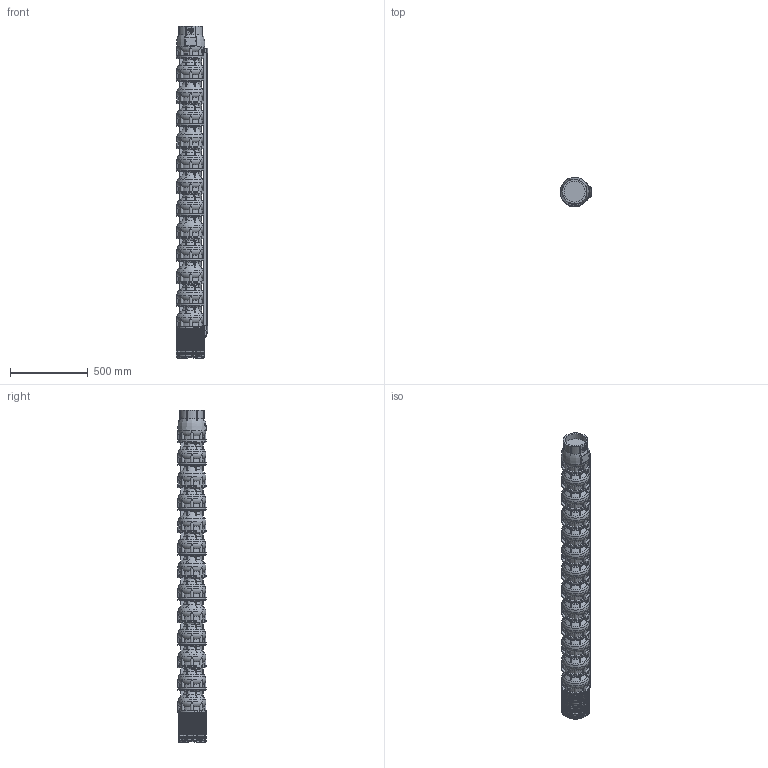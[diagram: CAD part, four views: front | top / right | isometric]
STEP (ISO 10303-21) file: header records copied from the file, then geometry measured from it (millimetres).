
FILE_DESCRIPTION(/* description */ ('Unknown'),/* implementation_level */ '2;1');
FILE_NAME(/* name */ 'VSI134-12_WR_M8-50_DLE',/* time_stamp */ '2023-09-14T14:36:36+02:00',/* author */ ('Unknown'),/* organization */ ('Unknown'),/* preprocessor_version */ 'ST-DEVELOPER v18.102',/* originating_system */ 'Solid Edge',/* authorisation */ 'Unknown');
FILE_SCHEMA (('MODEL_BASED_INTEGRATED_MANUFACTURING_SCHEMA','AUTOMOTIVE_DESIGN {1 0 10303 214 3 1 1}'));
Products named in the file (11): VSI134-12_WR_M8-50_DLE; VSI134_testata; VSI134_diffusore; VSI134_supporto_8×8; VSI134_filtro_A; VSI134_filtro_B; VSI134_terminale_top_copricavo_basso; VSI134_terminale_bottom_copricavo_basso; LOW 134-12; M5X8_UNI7687; VSI134_giunto_8×8
Assembly tree (30 placements, depth 2):
  VSI134-12_WR_M8-50_DLE
    VSI134_testata
    VSI134_diffusore  x12
    VSI134_supporto_8×8
    VSI134_filtro_A
    VSI134_filtro_B
    VSI134_terminale_top_copricavo_basso
    VSI134_terminale_bottom_copricavo_basso
    LOW 134-12
    M5X8_UNI7687  x10
    VSI134_giunto_8×8
Bounding box: 201.57 x 183.52 x 2137 mm (x, y, z)
Volume: 38935162 mm3; surface area: 2871666.6 mm2
Topology: 69 solids, 71 shells, 4485 faces, 12673 edges, 8460 vertices
Faces by surface type: plane 3228, cylinder 581, torus 570, cone 63, bspline 31, sphere 12
Full cylindrical faces by diameter (mm): 2.4 x2, 3 x2, 4.2 x16, 5 x10, 5.5 x8, 26 x1, 44 x1, 69 x1, 74 x1, 98 x1, 135.472 x1, 157 x1, 182 x13
Entity records: 85553 total; most frequent: CARTESIAN_POINT 18363, ORIENTED_EDGE 14056, DIRECTION 13490, EDGE_CURVE 7028, VERTEX_POINT 4730, AXIS2_PLACEMENT_3D 4596, LINE 4298, VECTOR 4298
